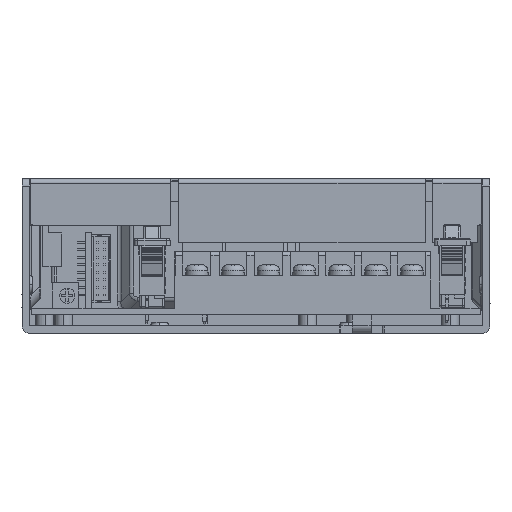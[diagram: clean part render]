
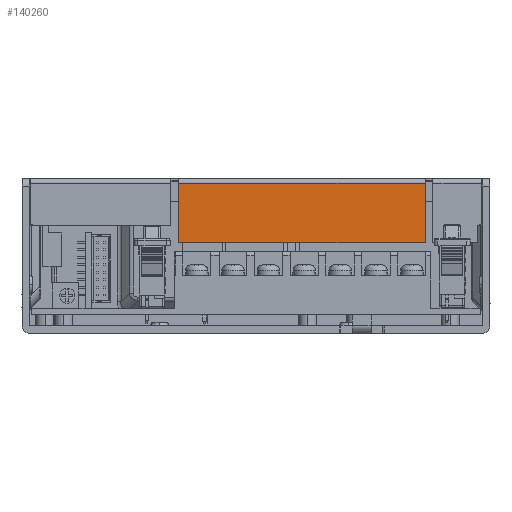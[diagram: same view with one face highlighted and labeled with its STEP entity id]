
A CAD part, left-side view. The second image highlights one B-rep face of the part: STEP entity #140260.
In plain terms, the highlighted planar face has unit normal (-1, 0, 0).
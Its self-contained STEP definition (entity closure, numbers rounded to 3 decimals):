
#121090=CARTESIAN_POINT('',(-209.,-31.8,-39.469));
#121100=VERTEX_POINT('',#121090);
#121130=CARTESIAN_POINT('',(-209.,0.,-39.469));
#121140=DIRECTION('',(0.,1.,0.));
#121150=VECTOR('',#121140,1.);
#121160=LINE('',#121130,#121150);
#121170=CARTESIAN_POINT('',(-209.,-16.,-39.469));
#121180=VERTEX_POINT('',#121170);
#121190=EDGE_CURVE('',#121100,#121180,#121160,.T.);
#137390=CARTESIAN_POINT('',(-209.,-31.8,-104.85));
#137400=VERTEX_POINT('',#137390);
#137430=CARTESIAN_POINT('',(-209.,-31.8,-119.8));
#137440=DIRECTION('',(0.,0.,1.));
#137450=VECTOR('',#137440,1.);
#137460=LINE('',#137430,#137450);
#137470=EDGE_CURVE('',#137400,#121100,#137460,.T.);
#139600=CARTESIAN_POINT('',(-209.,-16.,-104.85));
#139610=VERTEX_POINT('',#139600);
#139640=CARTESIAN_POINT('',(-209.,0.,-104.85));
#139650=DIRECTION('',(0.,-1.,0.));
#139660=VECTOR('',#139650,1.);
#139670=LINE('',#139640,#139660);
#139680=EDGE_CURVE('',#139610,#137400,#139670,.T.);
#140100=CARTESIAN_POINT('',(-209.,-33.,-0.2));
#140110=DIRECTION('',(-1.,0.,0.));
#140120=DIRECTION('',(0.,0.,1.));
#140130=AXIS2_PLACEMENT_3D('',#140100,#140110,#140120);
#140140=PLANE('',#140130);
#140150=CARTESIAN_POINT('',(-209.,-16.,-1.2));
#140160=DIRECTION('',(0.,0.,-1.));
#140170=VECTOR('',#140160,1.);
#140180=LINE('',#140150,#140170);
#140190=EDGE_CURVE('',#121180,#139610,#140180,.T.);
#140200=ORIENTED_EDGE('',*,*,#140190,.T.);
#140210=ORIENTED_EDGE('',*,*,#121190,.T.);
#140220=ORIENTED_EDGE('',*,*,#137470,.T.);
#140230=ORIENTED_EDGE('',*,*,#139680,.T.);
#140240=EDGE_LOOP('',(#140230,#140220,#140210,#140200));
#140250=FACE_OUTER_BOUND('',#140240,.T.);
#140260=ADVANCED_FACE('',(#140250),#140140,.T.);
